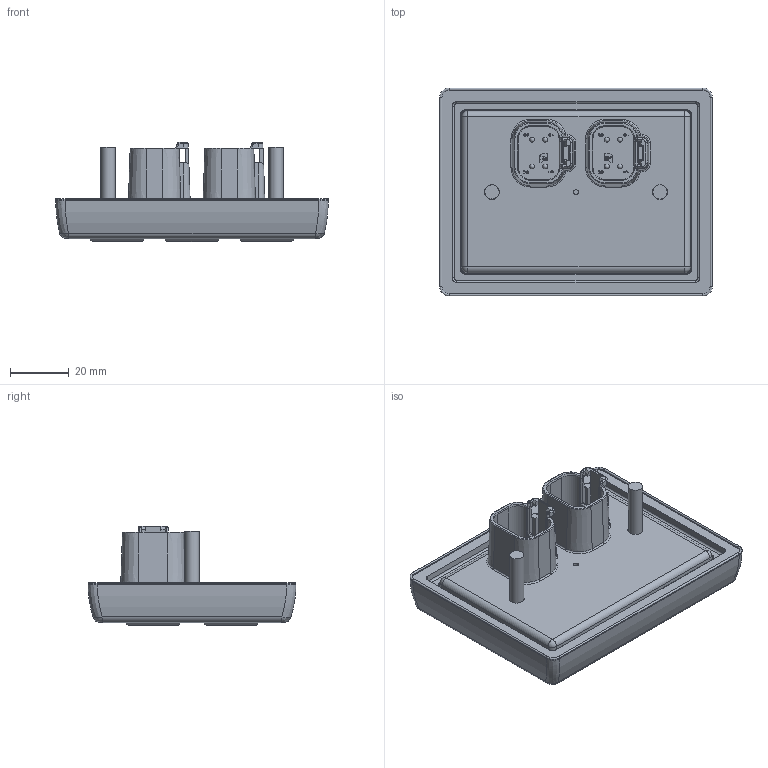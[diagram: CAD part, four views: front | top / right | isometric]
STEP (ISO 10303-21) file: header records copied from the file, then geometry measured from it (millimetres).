
FILE_DESCRIPTION (( 'STEP AP203' ), '1' );
FILE_NAME ('2x3.STEP', '2012-02-28T22:39:36', ( 'Tom Edwards' ), ( 'HED' ), 'SwSTEP 2.0', 'SolidWorks 2010', '' );
FILE_SCHEMA (( 'CONFIG_CONTROL_DESIGN' ));
Length unit declared in the file: inch
Products named in the file (5): CL-609-500; 415-11-618; 2x3; 175-45-635; 186-11-601
Assembly tree (12 placements, depth 2):
  2x3
    415-11-618  x2
    CL-609-500
    175-45-635  x8
    186-11-601
Bounding box: 92.71 x 70.74 x 33.73 mm (x, y, z)
Volume: 51233.5 mm3; surface area: 46377.4 mm2
Topology: 12 solids, 12 shells, 1645 faces, 3970 edges, 2513 vertices
Faces by surface type: plane 806, cylinder 430, cone 126, bspline 121, torus 112, sphere 50
Full cylindrical faces by diameter (mm): 1.524 x8, 1.562 x8, 1.575 x8, 1.6 x1, 1.638 x8, 2.032 x2, 2.794 x24, 3.048 x8, 3.175 x4, 4.826 x2, 5.08 x2, 8.255 x1
Entity records: 46399 total; most frequent: CARTESIAN_POINT 12509, DIRECTION 6760, ORIENTED_EDGE 6756, EDGE_CURVE 3378, AXIS2_PLACEMENT_3D 2389, VERTEX_POINT 2192, VECTOR 1982, LINE 1982
